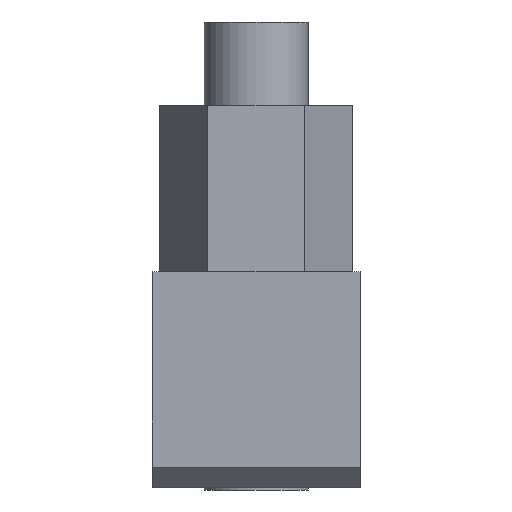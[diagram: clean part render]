
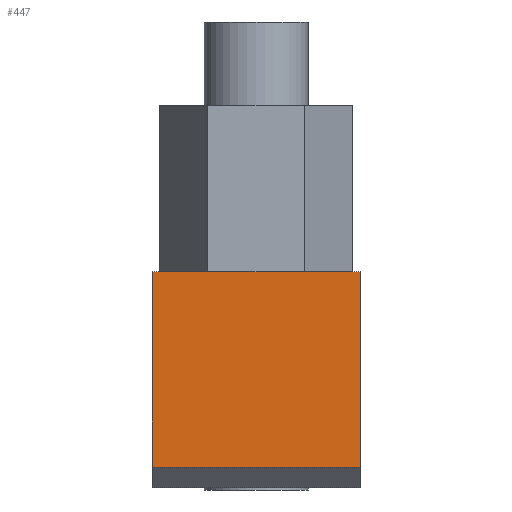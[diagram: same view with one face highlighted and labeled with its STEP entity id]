
A CAD part, left-side view. The second image highlights one B-rep face of the part: STEP entity #447.
In plain terms, the highlighted planar face has unit normal (-1, 0, 0).
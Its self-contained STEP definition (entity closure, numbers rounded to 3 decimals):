
#57=FACE_OUTER_BOUND('',#89,.T.);
#89=EDGE_LOOP('',(#381,#382,#383,#384));
#111=LINE('',#681,#160);
#115=LINE('',#690,#164);
#139=LINE('',#744,#188);
#140=LINE('',#745,#189);
#160=VECTOR('',#561,10.);
#164=VECTOR('',#569,10.);
#188=VECTOR('',#619,10.);
#189=VECTOR('',#620,10.);
#205=VERTEX_POINT('',#674);
#208=VERTEX_POINT('',#679);
#211=VERTEX_POINT('',#689);
#228=VERTEX_POINT('',#743);
#253=EDGE_CURVE('',#208,#205,#111,.T.);
#257=EDGE_CURVE('',#211,#205,#115,.T.);
#283=EDGE_CURVE('',#228,#208,#139,.T.);
#284=EDGE_CURVE('',#228,#211,#140,.T.);
#381=ORIENTED_EDGE('',*,*,#253,.F.);
#382=ORIENTED_EDGE('',*,*,#283,.F.);
#383=ORIENTED_EDGE('',*,*,#284,.T.);
#384=ORIENTED_EDGE('',*,*,#257,.T.);
#420=PLANE('',#502);
#447=ADVANCED_FACE('',(#57),#420,.T.);
#502=AXIS2_PLACEMENT_3D('',#742,#617,#618);
#561=DIRECTION('',(0.,1.,0.));
#569=DIRECTION('',(0.,0.,-1.));
#617=DIRECTION('center_axis',(-1.,0.,0.));
#618=DIRECTION('ref_axis',(0.,1.,0.));
#619=DIRECTION('',(0.,0.,-1.));
#620=DIRECTION('',(0.,1.,0.));
#674=CARTESIAN_POINT('',(-10.,5.,-9.4));
#679=CARTESIAN_POINT('',(-10.,-5.,-9.4));
#681=CARTESIAN_POINT('',(-10.,-2.5,-9.4));
#689=CARTESIAN_POINT('',(-10.,5.,0.));
#690=CARTESIAN_POINT('',(-10.,5.,0.));
#742=CARTESIAN_POINT('Origin',(-10.,-5.,0.));
#743=CARTESIAN_POINT('',(-10.,-5.,0.));
#744=CARTESIAN_POINT('',(-10.,-5.,0.));
#745=CARTESIAN_POINT('',(-10.,-5.,0.));
